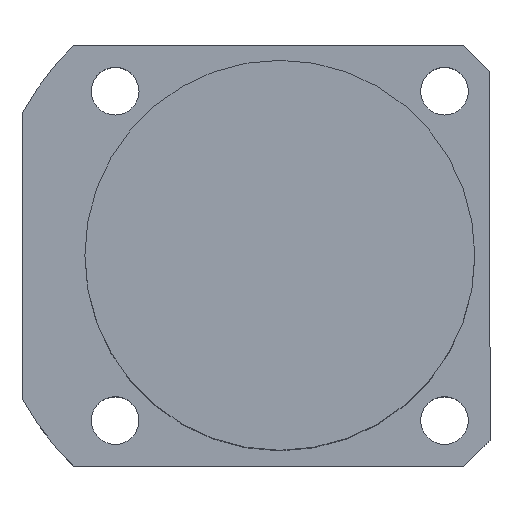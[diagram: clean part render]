
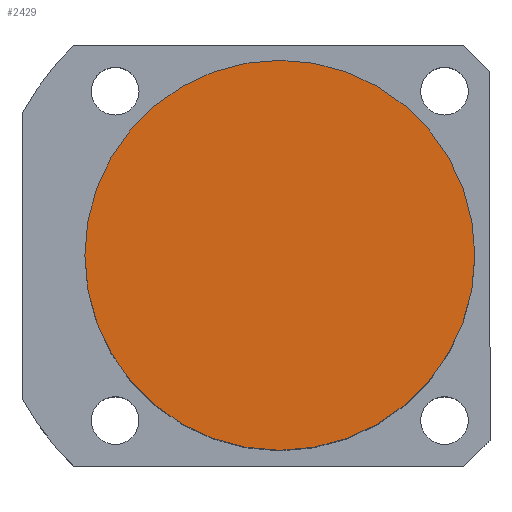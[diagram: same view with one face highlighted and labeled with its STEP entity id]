
A CAD part, top view. The second image highlights one B-rep face of the part: STEP entity #2429.
In plain terms, the highlighted planar face has unit normal (0, 0, 1).
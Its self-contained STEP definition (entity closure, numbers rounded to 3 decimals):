
#1160 = ORIENTED_EDGE ( 'NONE', *, *, #6051, .T. ) ;
#1468 = AXIS2_PLACEMENT_3D ( 'NONE', #2894, #6734, #3463 ) ;
#2400 = DIRECTION ( 'NONE',  ( 0., 0., 1. ) ) ;
#2429 = ADVANCED_FACE ( 'NONE', ( #5708 ), #3999, .T. ) ;
#2478 = CIRCLE ( 'NONE', #1468, 45. ) ;
#2766 = VERTEX_POINT ( 'NONE', #6072 ) ;
#2894 = CARTESIAN_POINT ( 'NONE',  ( 0., 0., 94.5 ) ) ;
#3385 = CARTESIAN_POINT ( 'NONE',  ( -45., 0., 94.5 ) ) ;
#3463 = DIRECTION ( 'NONE',  ( 1., 0., 0. ) ) ;
#3876 = AXIS2_PLACEMENT_3D ( 'NONE', #5681, #2400, #6237 ) ;
#3952 = DIRECTION ( 'NONE',  ( 1., 0., 0. ) ) ;
#3961 = AXIS2_PLACEMENT_3D ( 'NONE', #4581, #3975, #3952 ) ;
#3975 = DIRECTION ( 'NONE',  ( 0., 0., 1. ) ) ;
#3999 = PLANE ( 'NONE',  #3961 ) ;
#4525 = EDGE_CURVE ( 'NONE', #6006, #2766, #6240, .T. ) ;
#4581 = CARTESIAN_POINT ( 'NONE',  ( 0., 0., 94.5 ) ) ;
#5095 = EDGE_LOOP ( 'NONE', ( #6600, #1160 ) ) ;
#5681 = CARTESIAN_POINT ( 'NONE',  ( 0., 0., 94.5 ) ) ;
#5708 = FACE_OUTER_BOUND ( 'NONE', #5095, .T. ) ;
#6006 = VERTEX_POINT ( 'NONE', #3385 ) ;
#6051 = EDGE_CURVE ( 'NONE', #2766, #6006, #2478, .T. ) ;
#6072 = CARTESIAN_POINT ( 'NONE',  ( 45., 0., 94.5 ) ) ;
#6237 = DIRECTION ( 'NONE',  ( 1., 0., 0. ) ) ;
#6240 = CIRCLE ( 'NONE', #3876, 45. ) ;
#6600 = ORIENTED_EDGE ( 'NONE', *, *, #4525, .T. ) ;
#6734 = DIRECTION ( 'NONE',  ( 0., 0., 1. ) ) ;
